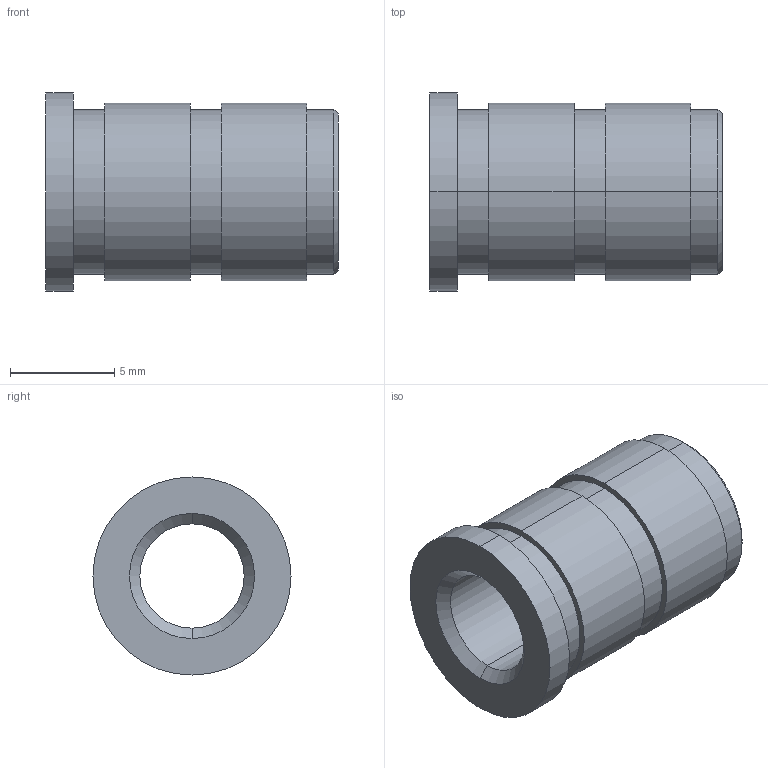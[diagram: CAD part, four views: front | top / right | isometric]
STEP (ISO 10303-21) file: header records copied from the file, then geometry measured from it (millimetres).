
FILE_DESCRIPTION (( 'STEP AP203' ), '1' );
FILE_NAME ('FSUK-HIHLH-M06-S.STEP', '2021-04-15T12:57:37', ( '' ), ( '' ), 'SwSTEP 2.0', 'SolidWorks 2021', '' );
FILE_SCHEMA (( 'CONFIG_CONTROL_DESIGN' ));
Length unit declared in the file: millimetre
Products named in the file (1): FSUK-HIHLH-M06-S
Bounding box: 14.02 x 9.5 x 9.5 mm (x, y, z)
Volume: 499.5 mm3; surface area: 712.2 mm2
Topology: 1 solids, 1 shells, 27 faces, 54 edges, 34 vertices
Faces by surface type: cylinder 14, plane 7, cone 6
Entity records: 795 total; most frequent: DIRECTION 144, CARTESIAN_POINT 116, ORIENTED_EDGE 108, AXIS2_PLACEMENT_3D 62, EDGE_CURVE 54, EDGE_LOOP 34, VERTEX_POINT 34, CIRCLE 34
